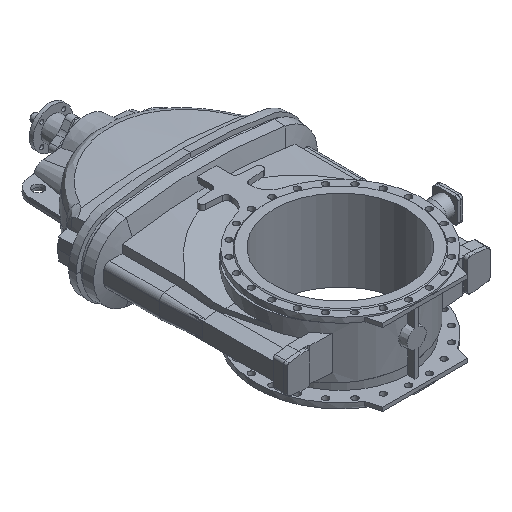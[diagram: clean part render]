
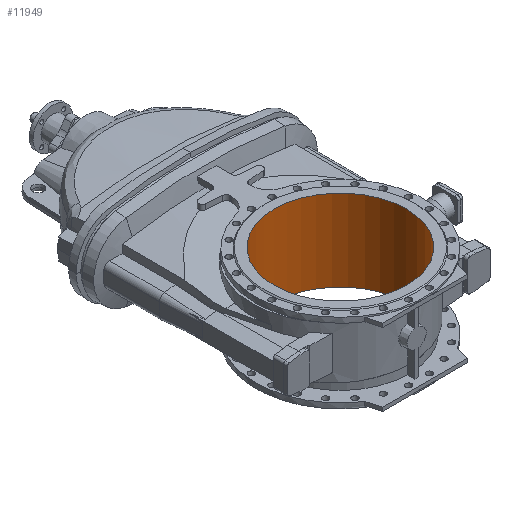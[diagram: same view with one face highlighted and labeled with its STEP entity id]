
A CAD part, isometric view. The second image highlights one B-rep face of the part: STEP entity #11949.
In plain terms, the highlighted cylindrical face has radius 350 mm (diameter 700 mm), a full revolution.
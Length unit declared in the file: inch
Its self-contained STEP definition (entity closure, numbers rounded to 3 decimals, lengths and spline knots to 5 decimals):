
#119 = ORIENTED_EDGE ( 'NONE', *, *, #10163, .F. ) ;
#120 = ORIENTED_EDGE ( 'NONE', *, *, #8773, .T. ) ;
#3533 = FACE_OUTER_BOUND ( 'NONE', #5925, .T. ) ;
#3545 = FACE_OUTER_BOUND ( 'NONE', #5926, .T. ) ;
#3549 = CYLINDRICAL_SURFACE ( 'NONE', #14861, 13.77953 ) ;
#4088 = VERTEX_POINT ( 'NONE', #19401 ) ;
#4131 = VERTEX_POINT ( 'NONE', #19444 ) ;
#5925 = EDGE_LOOP ( 'NONE', ( #119 ) ) ;
#5926 = EDGE_LOOP ( 'NONE', ( #120 ) ) ;
#8773 = EDGE_CURVE ( 'NONE', #4088, #4088, #14007, .T. ) ;
#9322 = CARTESIAN_POINT ( 'NONE',  ( 0., -1.9685, 8.46457 ) ) ;
#9323 = DIRECTION ( 'NONE',  ( 0., 0., 1. ) ) ;
#9324 = DIRECTION ( 'NONE',  ( 0., -1., 0. ) ) ;
#10163 = EDGE_CURVE ( 'NONE', #4131, #4131, #12329, .T. ) ;
#11949 = ADVANCED_FACE ( 'NONE', ( #3533, #3545 ), #3549, .F. ) ;
#12329 = CIRCLE ( 'NONE', #15870, 13.77953 ) ;
#12731 = CARTESIAN_POINT ( 'NONE',  ( 0., -1.9685, -8.46457 ) ) ;
#12733 = DIRECTION ( 'NONE',  ( 0., 0., 1. ) ) ;
#12735 = DIRECTION ( 'NONE',  ( 0., -1., 0. ) ) ;
#14007 = CIRCLE ( 'NONE', #15745, 13.77953 ) ;
#14861 = AXIS2_PLACEMENT_3D ( 'NONE', #16898, #16893, #16891 ) ;
#15745 = AXIS2_PLACEMENT_3D ( 'NONE', #9322, #9323, #9324 ) ;
#15870 = AXIS2_PLACEMENT_3D ( 'NONE', #12731, #12733, #12735 ) ;
#16891 = DIRECTION ( 'NONE',  ( 1., 0., 0. ) ) ;
#16893 = DIRECTION ( 'NONE',  ( 0., 0., 1. ) ) ;
#16898 = CARTESIAN_POINT ( 'NONE',  ( 0., -1.9685, -8.46457 ) ) ;
#19401 = CARTESIAN_POINT ( 'NONE',  ( 0., -15.74803, 8.46457 ) ) ;
#19444 = CARTESIAN_POINT ( 'NONE',  ( 0., -15.74803, -8.46457 ) ) ;
